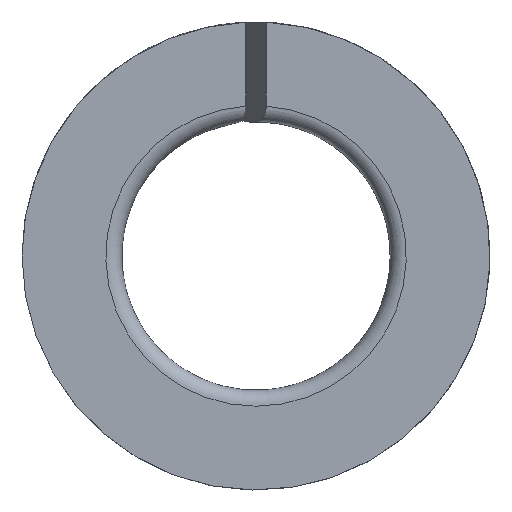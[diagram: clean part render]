
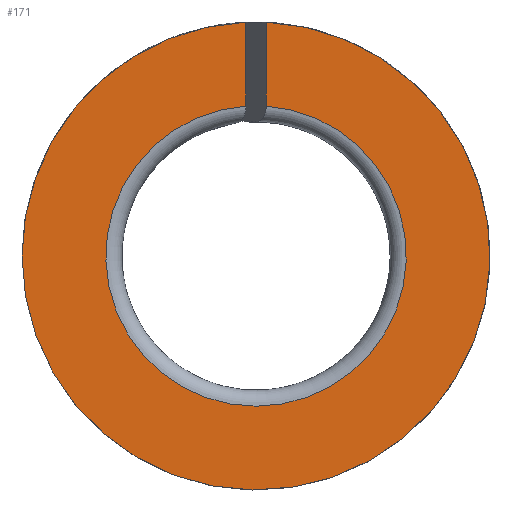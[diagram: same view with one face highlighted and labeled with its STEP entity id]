
A CAD part, left-side view. The second image highlights one B-rep face of the part: STEP entity #171.
In plain terms, the highlighted planar face has unit normal (-1, 0, 0).
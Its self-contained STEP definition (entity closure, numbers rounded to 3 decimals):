
#42=PLANE('',#209);
#49=FACE_OUTER_BOUND('',#58,.T.);
#58=EDGE_LOOP('',(#145,#146,#147,#148,#149));
#67=CIRCLE('',#198,7.4);
#70=CIRCLE('',#208,4.75);
#71=CIRCLE('',#210,7.4);
#78=LINE('',#299,#83);
#79=LINE('',#338,#84);
#83=VECTOR('',#234,10.);
#84=VECTOR('',#241,10.);
#87=VERTEX_POINT('',#274);
#89=VERTEX_POINT('',#278);
#93=VERTEX_POINT('',#296);
#94=VERTEX_POINT('',#298);
#99=VERTEX_POINT('',#327);
#103=EDGE_CURVE('',#87,#89,#67,.T.);
#107=EDGE_CURVE('',#94,#93,#78,.T.);
#113=EDGE_CURVE('',#89,#99,#79,.T.);
#117=EDGE_CURVE('',#94,#99,#70,.T.);
#118=EDGE_CURVE('',#93,#87,#71,.T.);
#145=ORIENTED_EDGE('',*,*,#107,.T.);
#146=ORIENTED_EDGE('',*,*,#118,.T.);
#147=ORIENTED_EDGE('',*,*,#103,.T.);
#148=ORIENTED_EDGE('',*,*,#113,.T.);
#149=ORIENTED_EDGE('',*,*,#117,.F.);
#171=ADVANCED_FACE('',(#49),#42,.T.);
#198=AXIS2_PLACEMENT_3D('',#280,#227,#228);
#208=AXIS2_PLACEMENT_3D('',#344,#251,#252);
#209=AXIS2_PLACEMENT_3D('',#345,#253,#254);
#210=AXIS2_PLACEMENT_3D('',#346,#255,#256);
#227=DIRECTION('center_axis',(-1.,0.,0.));
#228=DIRECTION('ref_axis',(0.,-1.,0.));
#234=DIRECTION('',(0.,0.,1.));
#241=DIRECTION('',(0.,0.,-1.));
#251=DIRECTION('center_axis',(-1.,0.,0.));
#252=DIRECTION('ref_axis',(0.,-1.,0.));
#253=DIRECTION('center_axis',(-1.,0.,0.));
#254=DIRECTION('ref_axis',(0.,0.,1.));
#255=DIRECTION('center_axis',(-1.,0.,0.));
#256=DIRECTION('ref_axis',(0.,-1.,0.));
#274=CARTESIAN_POINT('',(0.,7.4,0.));
#278=CARTESIAN_POINT('',(0.,-0.32,7.393));
#280=CARTESIAN_POINT('Origin',(0.,0.,0.));
#296=CARTESIAN_POINT('',(0.,0.32,7.393));
#298=CARTESIAN_POINT('',(0.,0.32,4.739));
#299=CARTESIAN_POINT('',(0.,0.32,0.));
#327=CARTESIAN_POINT('',(0.,-0.32,4.739));
#338=CARTESIAN_POINT('',(0.,-0.32,0.));
#344=CARTESIAN_POINT('Origin',(0.,0.,0.));
#345=CARTESIAN_POINT('Origin',(0.,0.,0.));
#346=CARTESIAN_POINT('Origin',(0.,0.,0.));
